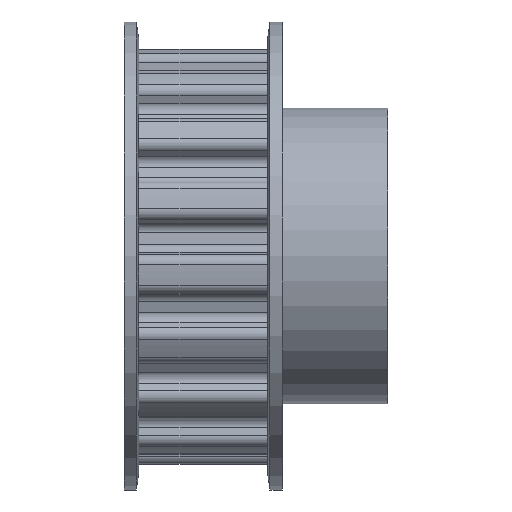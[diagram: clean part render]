
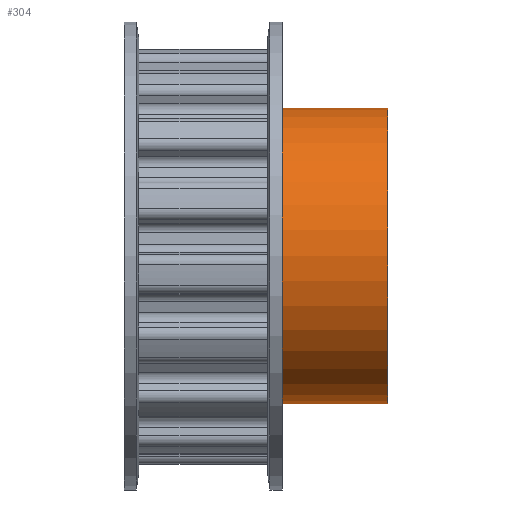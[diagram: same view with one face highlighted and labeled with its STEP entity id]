
A CAD part, top view. The second image highlights one B-rep face of the part: STEP entity #304.
In plain terms, the highlighted cylindrical face has radius 18 mm (diameter 36 mm), a partial arc.
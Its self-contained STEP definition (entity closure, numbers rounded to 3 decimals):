
#304 = ADVANCED_FACE( '', ( #772 ), #773, .T. );
#772 = FACE_OUTER_BOUND( '', #1243, .T. );
#773 = CYLINDRICAL_SURFACE( '', #1244, 18. );
#1243 = EDGE_LOOP( '', ( #3464, #3465, #3466, #3467 ) );
#1244 = AXIS2_PLACEMENT_3D( '', #3468, #3469, #3470 );
#3464 = ORIENTED_EDGE( '', *, *, #3552, .T. );
#3465 = ORIENTED_EDGE( '', *, *, #4082, .F. );
#3466 = ORIENTED_EDGE( '', *, *, #3554, .T. );
#3467 = ORIENTED_EDGE( '', *, *, #4354, .T. );
#3468 = CARTESIAN_POINT( '', ( 25.5, 0., 0. ) );
#3469 = DIRECTION( '', ( 1., 0., 0. ) );
#3470 = DIRECTION( '', ( 0., 1., 0. ) );
#3552 = EDGE_CURVE( '', #4355, #4356, #4357, .T. );
#3554 = EDGE_CURVE( '', #4360, #4358, #4361, .T. );
#4082 = EDGE_CURVE( '', #4360, #4356, #5300, .T. );
#4354 = EDGE_CURVE( '', #4358, #4355, #5667, .T. );
#4355 = VERTEX_POINT( '', #5668 );
#4356 = VERTEX_POINT( '', #5669 );
#4357 = LINE( '', #5670, #5671 );
#4358 = VERTEX_POINT( '', #5672 );
#4360 = VERTEX_POINT( '', #5674 );
#4361 = LINE( '', #5675, #5676 );
#5300 = CIRCLE( '', #6818, 18. );
#5667 = CIRCLE( '', #7375, 18. );
#5668 = CARTESIAN_POINT( '', ( 32., 18., 0. ) );
#5669 = CARTESIAN_POINT( '', ( 19., 18., 0. ) );
#5670 = CARTESIAN_POINT( '', ( 25.5, 18., 0. ) );
#5671 = VECTOR( '', #7376, 1. );
#5672 = CARTESIAN_POINT( '', ( 32., -18., 0. ) );
#5674 = CARTESIAN_POINT( '', ( 19., -18., 0. ) );
#5675 = CARTESIAN_POINT( '', ( 25.5, -18., 0. ) );
#5676 = VECTOR( '', #7380, 1. );
#6818 = AXIS2_PLACEMENT_3D( '', #8556, #8557, #8558 );
#7375 = AXIS2_PLACEMENT_3D( '', #8992, #8993, #8994 );
#7376 = DIRECTION( '', ( -1., 0., 0. ) );
#7380 = DIRECTION( '', ( 1., 0., 0. ) );
#8556 = CARTESIAN_POINT( '', ( 19., 0., 0. ) );
#8557 = DIRECTION( '', ( -1., 0., 0. ) );
#8558 = DIRECTION( '', ( 0., 1., 0. ) );
#8992 = CARTESIAN_POINT( '', ( 32., 0., 0. ) );
#8993 = DIRECTION( '', ( -1., 0., 0. ) );
#8994 = DIRECTION( '', ( 0., 1., 0. ) );
